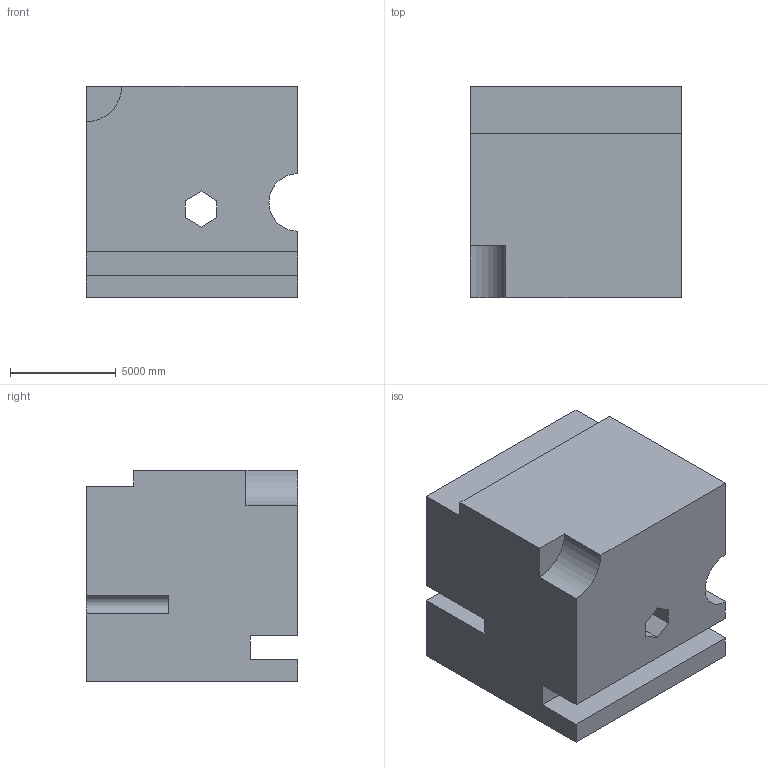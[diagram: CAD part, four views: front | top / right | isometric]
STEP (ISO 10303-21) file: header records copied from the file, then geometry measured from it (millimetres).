
FILE_DESCRIPTION (( 'STEP AP203' ), '1' );
FILE_NAME ('155.STEP', '2022-09-06T15:15:20', ( 'user' ), ( '' ), 'SwSTEP 2.0', 'SolidWorks 2021', '' );
FILE_SCHEMA (( 'CONFIG_CONTROL_DESIGN' ));
Length unit declared in the file: centimetre
Products named in the file (1): 155
Bounding box: 10000 x 10000 x 10000 mm (x, y, z)
Volume: 898242942676.7 mm3; surface area: 705651935 mm2
Topology: 1 solids, 1 shells, 26 faces, 72 edges, 48 vertices
Faces by surface type: plane 23, cylinder 3
Entity records: 903 total; most frequent: CARTESIAN_POINT 147, ORIENTED_EDGE 144, DIRECTION 132, EDGE_CURVE 72, VECTOR 66, LINE 66, VERTEX_POINT 48, AXIS2_PLACEMENT_3D 33
